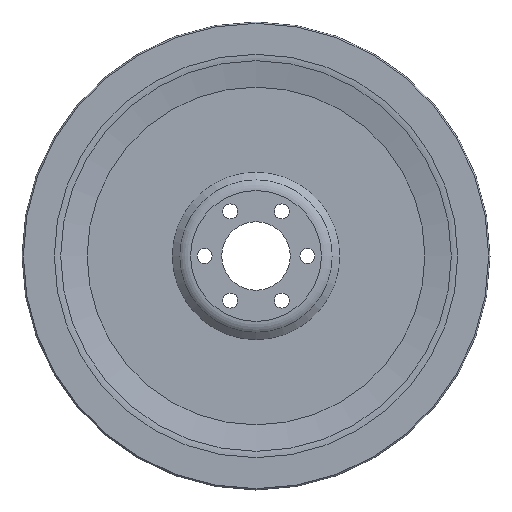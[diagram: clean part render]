
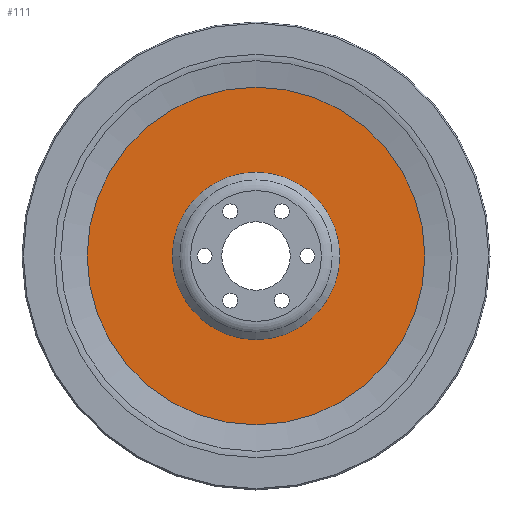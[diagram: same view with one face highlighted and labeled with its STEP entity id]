
A CAD part, left-side view. The second image highlights one B-rep face of the part: STEP entity #111.
In plain terms, the highlighted planar face has unit normal (-1, 0, 0).
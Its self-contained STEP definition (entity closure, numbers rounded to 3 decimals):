
#111 = ADVANCED_FACE( '', ( #276, #277 ), #278, .F. );
#276 = FACE_BOUND( '', #547, .T. );
#277 = FACE_OUTER_BOUND( '', #548, .T. );
#278 = PLANE( '', #549 );
#547 = EDGE_LOOP( '', ( #836 ) );
#548 = EDGE_LOOP( '', ( #837 ) );
#549 = AXIS2_PLACEMENT_3D( '', #838, #839, #840 );
#836 = ORIENTED_EDGE( '', *, *, #1188, .F. );
#837 = ORIENTED_EDGE( '', *, *, #1189, .T. );
#838 = CARTESIAN_POINT( '', ( 7.899, 0., 129.663 ) );
#839 = DIRECTION( '', ( 1., 0., 0. ) );
#840 = DIRECTION( '', ( 0., 0., -1. ) );
#1188 = EDGE_CURVE( '', #1340, #1340, #1341, .T. );
#1189 = EDGE_CURVE( '', #1342, #1342, #1343, .T. );
#1340 = VERTEX_POINT( '', #1541 );
#1341 = CIRCLE( '', #1542, 64.252 );
#1342 = VERTEX_POINT( '', #1543 );
#1343 = CIRCLE( '', #1544, 129.663 );
#1541 = CARTESIAN_POINT( '', ( 7.899, 0., 64.252 ) );
#1542 = AXIS2_PLACEMENT_3D( '', #1749, #1750, #1751 );
#1543 = CARTESIAN_POINT( '', ( 7.899, 0., 129.663 ) );
#1544 = AXIS2_PLACEMENT_3D( '', #1752, #1753, #1754 );
#1749 = CARTESIAN_POINT( '', ( 7.899, 0., 0. ) );
#1750 = DIRECTION( '', ( -1., 0., 0. ) );
#1751 = DIRECTION( '', ( 0., 0., 1. ) );
#1752 = CARTESIAN_POINT( '', ( 7.899, 0., 0. ) );
#1753 = DIRECTION( '', ( -1., 0., 0. ) );
#1754 = DIRECTION( '', ( 0., 0., 1. ) );
